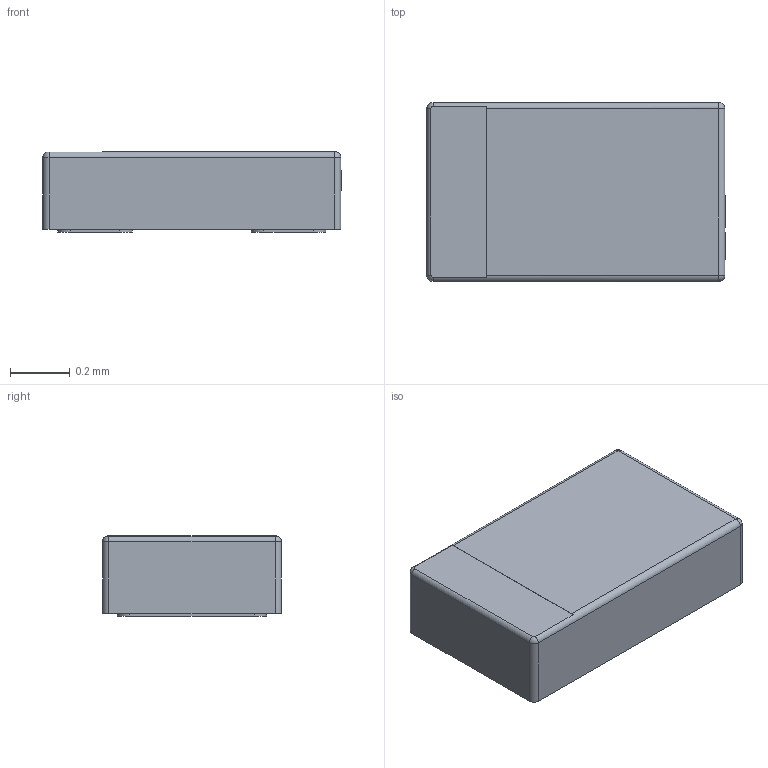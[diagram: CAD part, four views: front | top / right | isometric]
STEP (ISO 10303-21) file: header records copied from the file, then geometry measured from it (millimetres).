
FILE_DESCRIPTION (( 'STEP AP214' ), '1' );
FILE_NAME ('TSLP-2-19_L1.0-W0.6-H0.3-P0.65-RD.step', '2022-08-04T09:13:14', ( '' ), ( '' ), 'SwSTEP 2.0', 'SolidWorks 2020', '' );
FILE_SCHEMA (( 'AUTOMOTIVE_DESIGN' ));
Length unit declared in the file: millimetre
Products named in the file (1): TSLP-2-19_L1.0-W0.6-H0.3-P0.65-RD
Bounding box: 1 x 0.6 x 0.27 mm (x, y, z)
Volume: 0.2 mm3; surface area: 2 mm2
Topology: 14 solids, 14 shells, 328 faces, 865 edges, 573 vertices
Faces by surface type: plane 196, bspline 112, cylinder 16, torus 4
Entity records: 14401 total; most frequent: CARTESIAN_POINT 3873, ORIENTED_EDGE 1728, DIRECTION 1105, EDGE_CURVE 864, LINE 599, VECTOR 599, VERTEX_POINT 573, EDGE_LOOP 349
